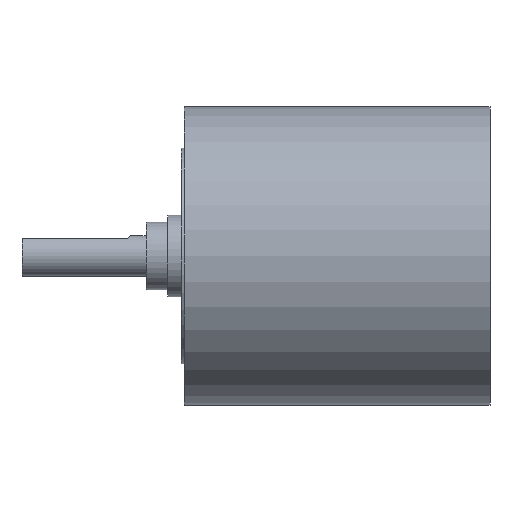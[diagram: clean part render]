
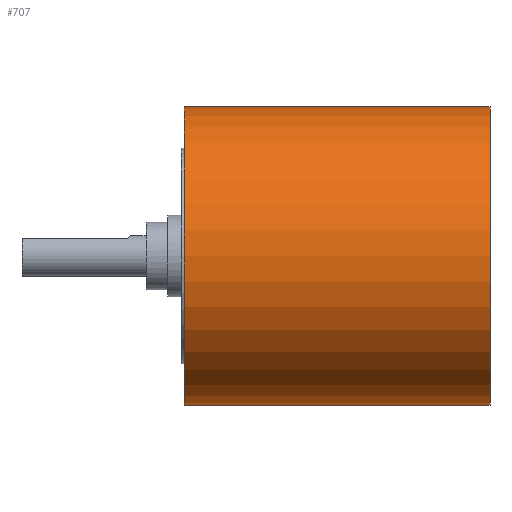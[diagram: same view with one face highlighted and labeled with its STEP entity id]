
A CAD part, top view. The second image highlights one B-rep face of the part: STEP entity #707.
In plain terms, the highlighted cylindrical face has radius 11 mm (diameter 22 mm), a partial arc.
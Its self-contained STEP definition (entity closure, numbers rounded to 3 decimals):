
#6=CARTESIAN_POINT('',(0.2,0.,0.));
#7=DIRECTION('',(1.,0.,0.));
#8=DIRECTION('',(0.,1.,0.));
#9=AXIS2_PLACEMENT_3D('',#6,#7,#8);
#221=DIRECTION('',(-1.,0.,0.));
#222=VECTOR('',#221,22.55);
#223=CARTESIAN_POINT('',(22.75,11.,0.));
#224=LINE('',#223,#222);
#225=DIRECTION('',(-1.,0.,0.));
#226=VECTOR('',#225,22.55);
#227=CARTESIAN_POINT('',(22.75,-11.,0.));
#228=LINE('',#227,#226);
#234=CARTESIAN_POINT('',(22.75,0.,0.));
#235=DIRECTION('',(1.,0.,0.));
#236=DIRECTION('',(0.,1.,0.));
#237=AXIS2_PLACEMENT_3D('',#234,#235,#236);
#275=CARTESIAN_POINT('',(22.75,11.,0.));
#276=CARTESIAN_POINT('',(0.2,11.,0.));
#277=VERTEX_POINT('',#275);
#278=VERTEX_POINT('',#276);
#291=CARTESIAN_POINT('',(22.75,-11.,0.));
#292=CARTESIAN_POINT('',(0.2,-11.,0.));
#293=VERTEX_POINT('',#291);
#294=VERTEX_POINT('',#292);
#695=CARTESIAN_POINT('',(-11.75,0.,0.));
#696=DIRECTION('',(1.,0.,0.));
#697=DIRECTION('',(0.,-1.,0.));
#698=AXIS2_PLACEMENT_3D('',#695,#696,#697);
#699=CYLINDRICAL_SURFACE('',#698,11.);
#700=ORIENTED_EDGE('',*,*,#685,.F.);
#702=ORIENTED_EDGE('',*,*,#701,.T.);
#703=ORIENTED_EDGE('',*,*,#688,.T.);
#704=ORIENTED_EDGE('',*,*,#349,.F.);
#705=EDGE_LOOP('',(#700,#702,#703,#704));
#706=FACE_OUTER_BOUND('',#705,.F.);
#707=ADVANCED_FACE('',(#706),#699,.T.);
#10=CIRCLE('',#9,11.);
#238=CIRCLE('',#237,11.);
#349=EDGE_CURVE('',#278,#294,#10,.T.);
#685=EDGE_CURVE('',#277,#278,#224,.T.);
#688=EDGE_CURVE('',#293,#294,#228,.T.);
#701=EDGE_CURVE('',#277,#293,#238,.T.);
